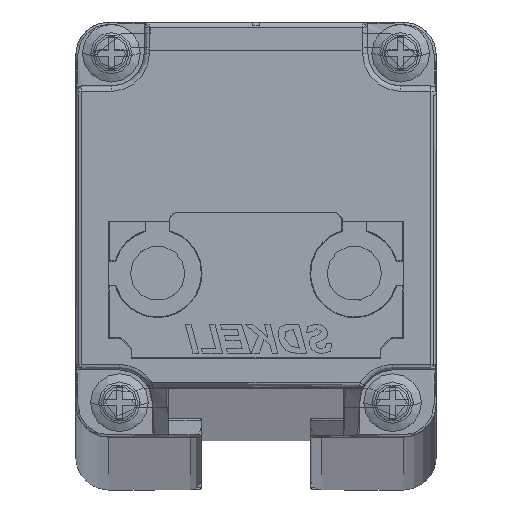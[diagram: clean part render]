
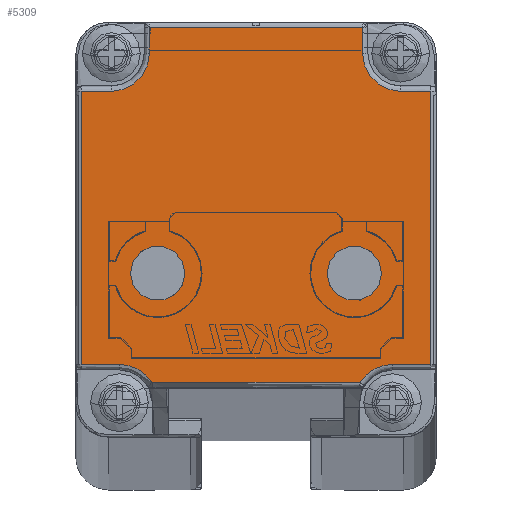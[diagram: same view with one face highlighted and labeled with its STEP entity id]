
A CAD part, top view. The second image highlights one B-rep face of the part: STEP entity #5309.
In plain terms, the highlighted planar face has unit normal (0, 0, 1).
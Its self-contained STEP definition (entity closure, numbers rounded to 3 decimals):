
#2498=CARTESIAN_POINT('',(4.,3.152,850.));
#2499=DIRECTION('',(0.,0.,1.));
#2500=DIRECTION('',(0.849,0.528,0.));
#2501=AXIS2_PLACEMENT_3D('',#2498,#2499,#2500);
#2503=CARTESIAN_POINT('',(3.25,35.15,850.));
#2504=DIRECTION('',(0.,0.,1.));
#2505=DIRECTION('',(0.,-1.,0.));
#2506=AXIS2_PLACEMENT_3D('',#2503,#2504,#2505);
#2508=CARTESIAN_POINT('',(29.75,35.15,850.));
#2509=DIRECTION('',(0.,0.,1.));
#2510=DIRECTION('',(-1.,0.,0.));
#2511=AXIS2_PLACEMENT_3D('',#2508,#2509,#2510);
#2513=CARTESIAN_POINT('',(29.,3.152,850.));
#2514=DIRECTION('',(0.,0.,1.));
#2515=DIRECTION('',(0.,1.,0.));
#2516=AXIS2_PLACEMENT_3D('',#2513,#2514,#2515);
#2518=CARTESIAN_POINT('',(7.5,15.002,850.));
#2519=DIRECTION('',(0.,0.,1.));
#2520=DIRECTION('',(1.,0.007,0.));
#2521=AXIS2_PLACEMENT_3D('',#2518,#2519,#2520);
#2523=CARTESIAN_POINT('',(7.5,15.002,850.));
#2524=DIRECTION('',(0.,0.,1.));
#2525=DIRECTION('',(-1.,-0.007,0.));
#2526=AXIS2_PLACEMENT_3D('',#2523,#2524,#2525);
#2528=CARTESIAN_POINT('',(25.5,15.,850.));
#2529=DIRECTION('',(0.,0.,1.));
#2530=DIRECTION('',(1.,-0.007,0.));
#2531=AXIS2_PLACEMENT_3D('',#2528,#2529,#2530);
#2533=CARTESIAN_POINT('',(25.5,15.,850.));
#2534=DIRECTION('',(0.,0.,1.));
#2535=DIRECTION('',(-1.,0.007,0.));
#2536=AXIS2_PLACEMENT_3D('',#2533,#2534,#2535);
#2566=DIRECTION('',(1.,-0.001,0.));
#2567=VECTOR('',#2566,19.056);
#2568=CARTESIAN_POINT('',(6.972,5.,850.));
#2569=LINE('',#2568,#2567);
#3032=DIRECTION('',(1.,0.,0.));
#3033=VECTOR('',#3032,3.5);
#3034=CARTESIAN_POINT('',(29.,6.652,850.));
#3035=LINE('',#3034,#3033);
#3056=DIRECTION('',(0.,1.,0.));
#3057=VECTOR('',#3056,24.998);
#3058=CARTESIAN_POINT('',(32.5,6.652,850.));
#3059=LINE('',#3058,#3057);
#3080=DIRECTION('',(-1.,0.,0.));
#3081=VECTOR('',#3080,2.75);
#3082=CARTESIAN_POINT('',(32.5,31.65,850.));
#3083=LINE('',#3082,#3081);
#3107=DIRECTION('',(0.,1.,0.));
#3108=VECTOR('',#3107,2.35);
#3109=CARTESIAN_POINT('',(26.25,35.15,850.));
#3110=LINE('',#3109,#3108);
#3147=DIRECTION('',(-1.,0.,0.));
#3148=VECTOR('',#3147,19.5);
#3149=CARTESIAN_POINT('',(26.25,37.5,850.));
#3150=LINE('',#3149,#3148);
#3171=DIRECTION('',(0.,-1.,0.));
#3172=VECTOR('',#3171,2.35);
#3173=CARTESIAN_POINT('',(6.75,37.5,850.));
#3174=LINE('',#3173,#3172);
#3198=DIRECTION('',(-1.,0.,0.));
#3199=VECTOR('',#3198,2.75);
#3200=CARTESIAN_POINT('',(3.25,31.65,850.));
#3201=LINE('',#3200,#3199);
#3225=DIRECTION('',(0.,-1.,0.));
#3226=VECTOR('',#3225,24.998);
#3227=CARTESIAN_POINT('',(0.5,31.65,850.));
#3228=LINE('',#3227,#3226);
#3267=DIRECTION('',(1.,0.,0.));
#3268=VECTOR('',#3267,3.5);
#3269=CARTESIAN_POINT('',(0.5,6.652,850.));
#3270=LINE('',#3269,#3268);
#4662=CARTESIAN_POINT('',(10.,15.018,850.));
#4663=VERTEX_POINT('',#4662);
#4664=CARTESIAN_POINT('',(5.,14.986,850.));
#4665=VERTEX_POINT('',#4664);
#4666=CARTESIAN_POINT('',(6.972,5.,850.));
#4667=CARTESIAN_POINT('',(4.,6.652,850.));
#4668=VERTEX_POINT('',#4666);
#4669=VERTEX_POINT('',#4667);
#4670=CARTESIAN_POINT('',(0.5,6.652,850.));
#4671=VERTEX_POINT('',#4670);
#4672=CARTESIAN_POINT('',(0.5,31.65,850.));
#4673=VERTEX_POINT('',#4672);
#4674=CARTESIAN_POINT('',(3.25,31.65,850.));
#4675=VERTEX_POINT('',#4674);
#4676=CARTESIAN_POINT('',(6.75,35.15,850.));
#4677=VERTEX_POINT('',#4676);
#4678=CARTESIAN_POINT('',(6.75,37.5,850.));
#4679=VERTEX_POINT('',#4678);
#4680=CARTESIAN_POINT('',(26.25,37.5,850.));
#4681=VERTEX_POINT('',#4680);
#4682=CARTESIAN_POINT('',(26.25,35.15,850.));
#4683=VERTEX_POINT('',#4682);
#4684=CARTESIAN_POINT('',(29.75,31.65,850.));
#4685=VERTEX_POINT('',#4684);
#4686=CARTESIAN_POINT('',(32.5,31.65,850.));
#4687=VERTEX_POINT('',#4686);
#4688=CARTESIAN_POINT('',(32.5,6.652,850.));
#4689=VERTEX_POINT('',#4688);
#4690=CARTESIAN_POINT('',(29.,6.652,850.));
#4691=VERTEX_POINT('',#4690);
#4692=CARTESIAN_POINT('',(26.028,5.,850.));
#4693=VERTEX_POINT('',#4692);
#4694=CARTESIAN_POINT('',(28.,14.984,850.));
#4695=CARTESIAN_POINT('',(23.,15.017,850.));
#4696=VERTEX_POINT('',#4694);
#4697=VERTEX_POINT('',#4695);
#5264=CARTESIAN_POINT('',(16.5,24.,850.));
#5265=DIRECTION('',(0.,0.,1.));
#5266=DIRECTION('',(1.,0.,0.));
#5267=AXIS2_PLACEMENT_3D('',#5264,#5265,#5266);
#5268=PLANE('',#5267);
#5270=ORIENTED_EDGE('',*,*,#5269,.T.);
#5272=ORIENTED_EDGE('',*,*,#5271,.F.);
#5274=ORIENTED_EDGE('',*,*,#5273,.F.);
#5276=ORIENTED_EDGE('',*,*,#5275,.F.);
#5278=ORIENTED_EDGE('',*,*,#5277,.T.);
#5280=ORIENTED_EDGE('',*,*,#5279,.F.);
#5282=ORIENTED_EDGE('',*,*,#5281,.F.);
#5284=ORIENTED_EDGE('',*,*,#5283,.F.);
#5286=ORIENTED_EDGE('',*,*,#5285,.T.);
#5288=ORIENTED_EDGE('',*,*,#5287,.F.);
#5290=ORIENTED_EDGE('',*,*,#5289,.F.);
#5292=ORIENTED_EDGE('',*,*,#5291,.F.);
#5294=ORIENTED_EDGE('',*,*,#5293,.T.);
#5296=ORIENTED_EDGE('',*,*,#5295,.F.);
#5297=EDGE_LOOP('',(#5270,#5272,#5274,#5276,#5278,#5280,#5282,#5284,#5286,#5288,
#5290,#5292,#5294,#5296));
#5298=FACE_OUTER_BOUND('',#5297,.F.);
#5299=ORIENTED_EDGE('',*,*,#5251,.T.);
#5300=ORIENTED_EDGE('',*,*,#5212,.T.);
#5301=EDGE_LOOP('',(#5299,#5300));
#5302=FACE_BOUND('',#5301,.F.);
#5304=ORIENTED_EDGE('',*,*,#5303,.T.);
#5306=ORIENTED_EDGE('',*,*,#5305,.T.);
#5307=EDGE_LOOP('',(#5304,#5306));
#5308=FACE_BOUND('',#5307,.F.);
#2502=CIRCLE('',#2501,3.5);
#2507=CIRCLE('',#2506,3.5);
#2512=CIRCLE('',#2511,3.5);
#2517=CIRCLE('',#2516,3.5);
#2522=CIRCLE('',#2521,2.5);
#2527=CIRCLE('',#2526,2.5);
#2532=CIRCLE('',#2531,2.5);
#2537=CIRCLE('',#2536,2.5);
#5212=EDGE_CURVE('',#4665,#4663,#2527,.T.);
#5251=EDGE_CURVE('',#4663,#4665,#2522,.T.);
#5269=EDGE_CURVE('',#4668,#4669,#2502,.T.);
#5271=EDGE_CURVE('',#4671,#4669,#3270,.T.);
#5273=EDGE_CURVE('',#4673,#4671,#3228,.T.);
#5275=EDGE_CURVE('',#4675,#4673,#3201,.T.);
#5277=EDGE_CURVE('',#4675,#4677,#2507,.T.);
#5279=EDGE_CURVE('',#4679,#4677,#3174,.T.);
#5281=EDGE_CURVE('',#4681,#4679,#3150,.T.);
#5283=EDGE_CURVE('',#4683,#4681,#3110,.T.);
#5285=EDGE_CURVE('',#4683,#4685,#2512,.T.);
#5287=EDGE_CURVE('',#4687,#4685,#3083,.T.);
#5289=EDGE_CURVE('',#4689,#4687,#3059,.T.);
#5291=EDGE_CURVE('',#4691,#4689,#3035,.T.);
#5293=EDGE_CURVE('',#4691,#4693,#2517,.T.);
#5295=EDGE_CURVE('',#4668,#4693,#2569,.T.);
#5303=EDGE_CURVE('',#4696,#4697,#2532,.T.);
#5305=EDGE_CURVE('',#4697,#4696,#2537,.T.);
#5309=ADVANCED_FACE('',(#5298,#5302,#5308),#5268,.T.);
